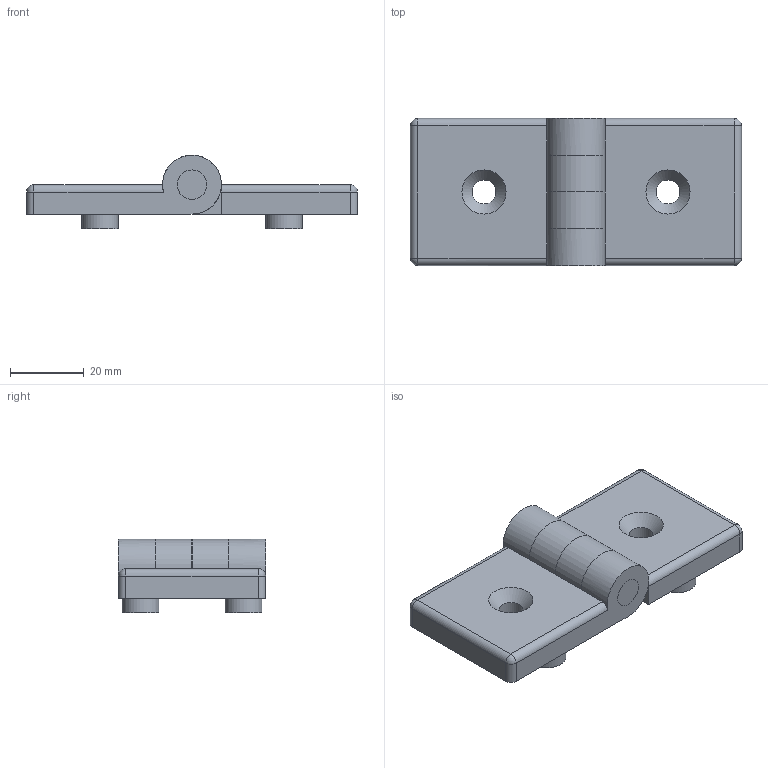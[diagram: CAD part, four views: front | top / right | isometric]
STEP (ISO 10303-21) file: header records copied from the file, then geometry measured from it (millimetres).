
FILE_DESCRIPTION((''),'2;1');
FILE_NAME('E:\catalogue and flyer\Profile catalogue 2015\Accessories ACC info\Accessories ACC step file 31Mar16\ACC-H9040-10.stp','2016-04-07T13:37:26',('h029'),(''),'Autodesk Inventor 11','Autodesk Inventor 11','');
FILE_SCHEMA(('AUTOMOTIVE_DESIGN { 1 0 10303 214 1 1 1 1 }'));
Length unit declared in the file: millimetre
Products named in the file (3): Hinge ACC-H9040-10; right part; pin
Assembly tree (3 placements, depth 2):
  Hinge ACC-H9040-10
    right part  x2
    pin
Bounding box: 90 x 40 x 20 mm (x, y, z)
Volume: 32554.4 mm3; surface area: 13741.4 mm2
Topology: 3 solids, 3 shells, 57 faces, 129 edges, 78 vertices
Faces by surface type: plane 26, cylinder 19, bspline 8, sphere 4
Full cylindrical faces by diameter (mm): 8 x1, 10 x4
Entity records: 921 total; most frequent: CARTESIAN_POINT 215, DIRECTION 144, ORIENTED_EDGE 110, AXIS2_PLACEMENT_3D 58, EDGE_CURVE 55, EDGE_LOOP 45, VERTEX_POINT 38, FACE_OUTER_BOUND 30
